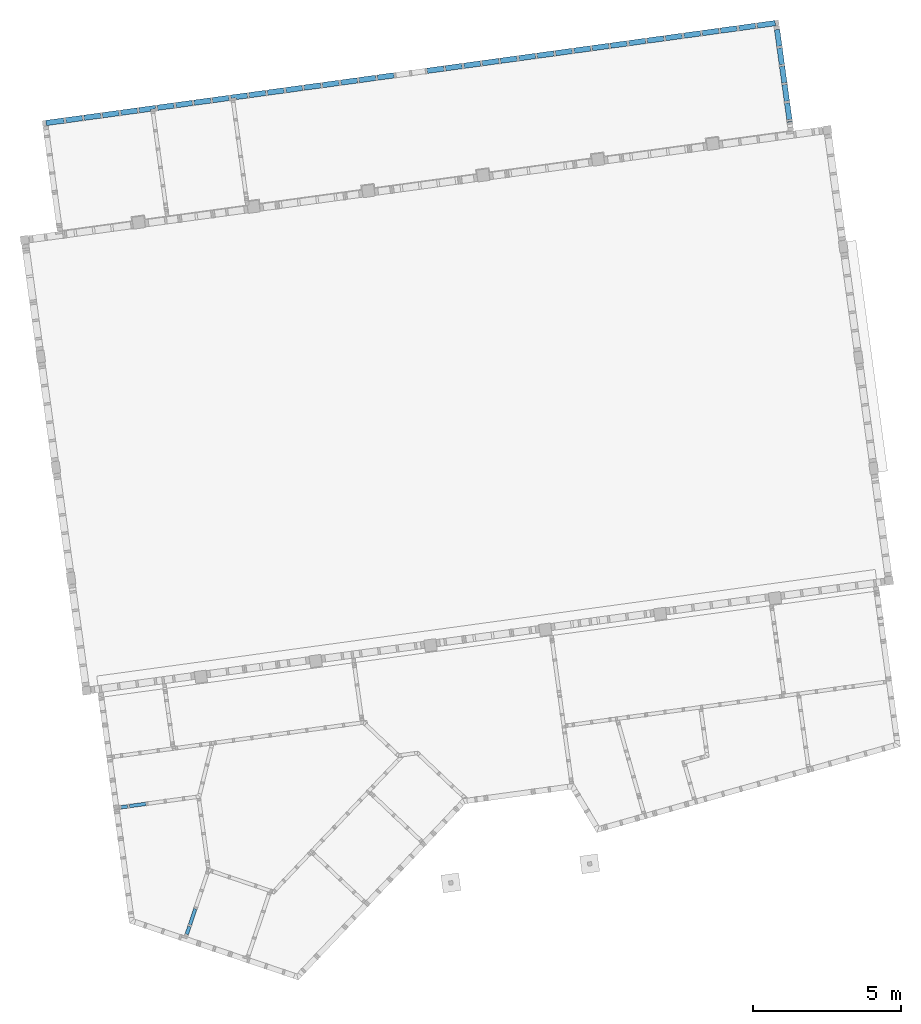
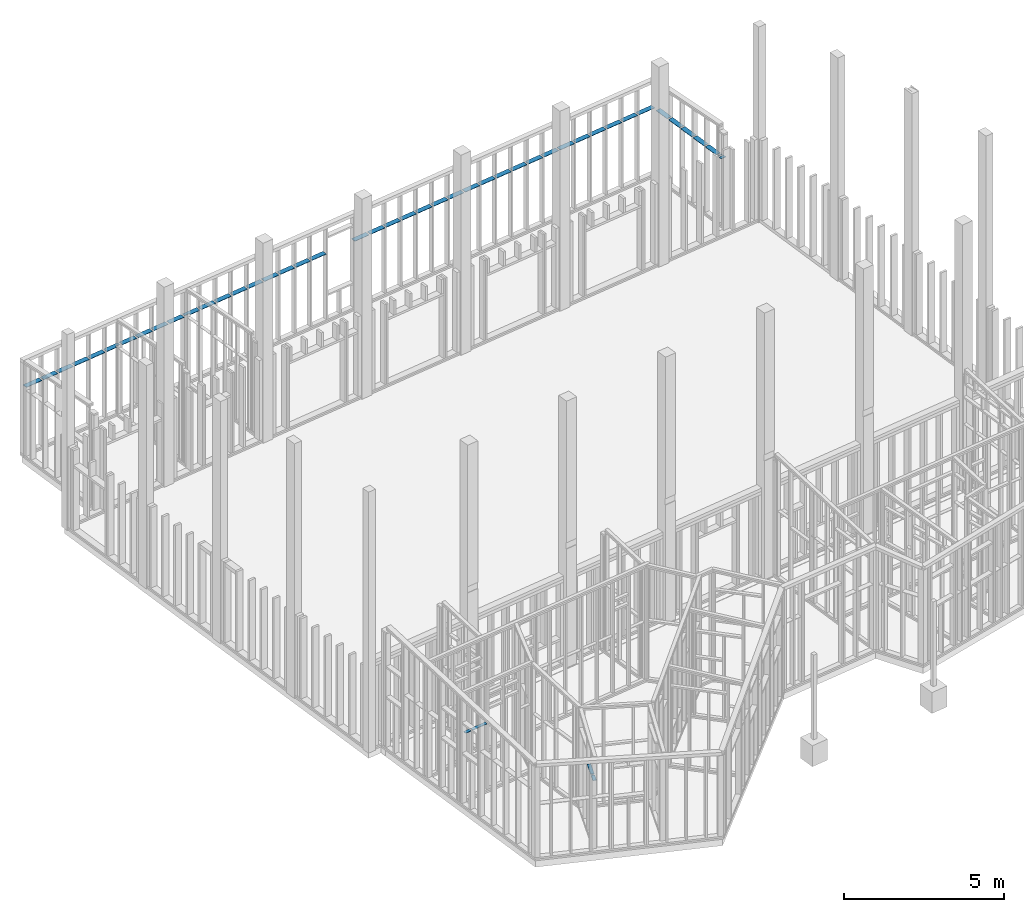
# One storey, part 21 of 24: 5 beams.
"""IFC2X3 building model written with IfcOpenShell, lengths in metres."""

from ifc_helpers import new_model, entity, si_unit, converted_unit, derived_unit, money_unit, direction, frame, frame_2d, origin_with_axes, place, context, subcontext, project, spatial, rectangle, extrude, boolean, faceted_brep, material, type_object, element, save


model = new_model("IFC2X3")

# Units and contexts
model_context = context("Model", 3, precision=1e-05, world=origin_with_axes(), true_north=direction((0.0, 1.0)))
body_context = subcontext(model_context, "Body", "Model", "MODEL_VIEW")
ifc_project = project(units=[si_unit("LENGTHUNIT", "METRE"), si_unit("AREAUNIT", "SQUARE_METRE"), si_unit("VOLUMEUNIT", "CUBIC_METRE"), converted_unit("PLANEANGLEUNIT", "DEGREE", entity("IfcPlaneAngleMeasure", 0.0174532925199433), si_unit("PLANEANGLEUNIT", "RADIAN"), dimensions=[0, 0, 0, 0, 0, 0, 0]), money_unit("EUR"), converted_unit("TIMEUNIT", "Year", entity("IfcTimeMeasure", 31557600.0), si_unit("TIMEUNIT", "SECOND"), dimensions=[0, 0, 1, 0, 0, 0, 0]), si_unit("MASSUNIT", "GRAM", prefix="KILO"), si_unit("THERMODYNAMICTEMPERATUREUNIT", "DEGREE_CELSIUS"), si_unit("LUMINOUSINTENSITYUNIT", "LUMEN"), si_unit("ENERGYUNIT", "JOULE", prefix="MEGA"), derived_unit("THERMALCONDUCTANCEUNIT", [(si_unit("POWERUNIT", "WATT"), 1), (si_unit("LENGTHUNIT", "METRE"), -1), (si_unit("THERMODYNAMICTEMPERATUREUNIT", "KELVIN"), -1)]), derived_unit("SPECIFICHEATCAPACITYUNIT", [(si_unit("ENERGYUNIT", "JOULE"), 1), (si_unit("MASSUNIT", "GRAM", prefix="KILO"), -1), (si_unit("THERMODYNAMICTEMPERATUREUNIT", "KELVIN"), -1)]), derived_unit("MASSDENSITYUNIT", [(si_unit("MASSUNIT", "GRAM", prefix="KILO"), 1), (si_unit("VOLUMEUNIT", "CUBIC_METRE"), -1)])], contexts=[model_context])

# Site, building, storey
site_placement = place(None, origin_with_axes())
site = spatial("IfcSite", under=ifc_project, at=site_placement, Name="Gelände", CompositionType="ELEMENT")
building_placement = place(site_placement, origin_with_axes())
building = spatial("IfcBuilding", under=site, at=building_placement, Name="Gebäude", CompositionType="ELEMENT")
storey_placement = place(building_placement, origin_with_axes())
storey = spatial("IfcBuildingStorey", under=building, at=storey_placement, Name="EG", CompositionType="ELEMENT", Elevation=0.0)

# Beams
ifc_material = material(Name="Bauholz")
beam_type_1 = type_object("IfcBeamType", Name="Bauholz 120 x 15", PredefinedType="NOTDEFINED")
beam_1_placement = place(storey_placement, frame((88.60541086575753, -154.8373218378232, 2.471999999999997), z_axis=(0.0, 0.0, 1.0), x_axis=(-0.1357111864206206, 0.990748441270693, 0.0)))
element("IfcBeam", 1, at=beam_1_placement, inside=storey, type_object=beam_type_1, material=ifc_material, Name="Unterzug-021", context=body_context, shape_type="CSG", body=[
    boolean("DIFFERENCE", extrude(rectangle(XDim=0.015, YDim=0.12, at=frame_2d((-0.0075, 0.0), x_axis=(1.0, 0.0))), frame((0.0, 0.0, 0.0), z_axis=(0.0, 1.0, 0.0), x_axis=(0.0, 0.0, 1.0)), (0.0, 0.0, 1.0), 0.8474194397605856), faceted_brep([(-0.06000000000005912, 0.564999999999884, -0.01500000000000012), (-0.06000000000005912, 0.564999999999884, 0.0), (-0.06000000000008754, 0.6249999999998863, 0.0), (-0.06000000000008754, 0.6249999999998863, -0.01500000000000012), (0.05999999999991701, 0.5649999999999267, 0.0), (0.05999999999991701, 0.5649999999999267, -0.01499999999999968), (0.05999999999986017, 0.624999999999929, 0.0), (0.05999999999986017, 0.624999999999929, -0.01500000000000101)], [[[0, 1, 2, 3]], [[4, 1, 0, 5]], [[1, 4, 6, 2]], [[7, 3, 2, 6]], [[5, 0, 3, 7]], [[4, 5, 7, 6]]])),
])
beam_2_placement = place(storey_placement, frame((90.27237120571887, -158.3831203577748, 2.472), z_axis=(0.0, 0.0, 1.0), x_axis=(-0.9474861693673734, 0.3197967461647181, 0.0)))
element("IfcBeam", 2, at=beam_2_placement, inside=storey, type_object=beam_type_1, material=ifc_material, Name="Unterzug-021", context=body_context, shape_type="CSG", body=[
    boolean("DIFFERENCE", extrude(rectangle(XDim=0.015, YDim=0.12, at=frame_2d((-0.0075, 0.0), x_axis=(1.0, 0.0))), frame((0.0, 0.0, 0.0), z_axis=(0.0, 1.0, 0.0), x_axis=(0.0, 0.0, 1.0)), (0.0, 0.0, 1.0), 0.910565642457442), faceted_brep([(-0.05999990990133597, 0.565000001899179, -0.01500000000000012), (-0.05999990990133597, 0.565000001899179, 0.0), (-0.05999986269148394, 0.6250000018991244, 0.0), (-0.05999986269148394, 0.6250000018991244, -0.01500000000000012), (0.06000009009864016, 0.5649999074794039, 0.0), (0.06000009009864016, 0.5649999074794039, -0.01500000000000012), (0.06000013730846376, 0.6249999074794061, 0.0), (0.06000013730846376, 0.6249999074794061, -0.01500000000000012)], [[[0, 1, 2, 3]], [[4, 1, 0, 5]], [[1, 4, 6, 2]], [[7, 3, 2, 6]], [[5, 0, 3, 7]], [[4, 5, 7, 6]]])),
])
beam_type_2 = type_object("IfcBeamType", Name="Bauholz 180 x 15", PredefinedType="NOTDEFINED")
beam_3_placement = place(storey_placement, frame((96.98406004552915, -130.233993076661, 2.564999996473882), z_axis=(0.0, 0.0, 1.0), x_axis=(-0.1357111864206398, 0.9907484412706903, 0.0)))
solid_1 = boolean("DIFFERENCE", boolean("DIFFERENCE", boolean("DIFFERENCE", boolean("DIFFERENCE", boolean("DIFFERENCE", boolean("DIFFERENCE", boolean("DIFFERENCE", boolean("DIFFERENCE", extrude(rectangle(XDim=0.015, YDim=0.18, at=frame_2d((-0.0075, 0.0), x_axis=(1.0, 0.0))), frame((0.0, 0.0, 0.0), z_axis=(0.0, 1.0, 0.0), x_axis=(0.0, 0.0, 1.0)), (0.0, 0.0, 1.0), 11.86468620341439), faceted_brep([(-0.09000000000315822, 0.5650000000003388, -0.01500000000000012), (-0.09000000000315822, 0.5650000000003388, 0.0), (-0.09000000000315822, 0.6250000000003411, 0.0), (-0.09000000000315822, 0.6250000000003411, -0.01500000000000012), (0.08999999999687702, 0.5650000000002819, 0.0), (0.08999999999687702, 0.5650000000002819, -0.01500000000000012), (0.0899999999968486, 0.6250000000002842, 0.0), (0.0899999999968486, 0.6250000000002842, -0.01500000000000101)], [[[0, 1, 2, 3]], [[4, 1, 0, 5]], [[1, 4, 6, 2]], [[7, 3, 2, 6]], [[5, 0, 3, 7]], [[4, 5, 7, 6]]])), faceted_brep([(-0.0900000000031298, 1.190000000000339, -0.01500000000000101), (-0.0900000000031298, 1.190000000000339, 0.0), (-0.0900000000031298, 1.250000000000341, 0.0), (-0.0900000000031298, 1.250000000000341, -0.01500000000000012), (0.08999999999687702, 1.190000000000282, 0.0), (0.08999999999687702, 1.190000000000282, -0.01500000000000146), (0.08999999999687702, 1.250000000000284, 0.0), (0.08999999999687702, 1.250000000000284, -0.01500000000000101)], [[[0, 1, 2, 3]], [[4, 1, 0, 5]], [[1, 4, 6, 2]], [[7, 3, 2, 6]], [[5, 0, 3, 7]], [[4, 5, 7, 6]]])), faceted_brep([(-0.0900000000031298, 1.815000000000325, -0.01500000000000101), (-0.0900000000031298, 1.815000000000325, 0.0), (-0.09000000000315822, 1.875000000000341, 0.0), (-0.09000000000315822, 1.875000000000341, -0.01500000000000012), (0.08999999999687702, 1.815000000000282, 0.0), (0.08999999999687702, 1.815000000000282, -0.01500000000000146), (0.0899999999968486, 1.875000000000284, 0.0), (0.0899999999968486, 1.875000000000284, -0.01500000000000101)], [[[0, 1, 2, 3]], [[4, 1, 0, 5]], [[1, 4, 6, 2]], [[7, 3, 2, 6]], [[5, 0, 3, 7]], [[4, 5, 7, 6]]])), faceted_brep([(-0.09000000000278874, 2.440000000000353, -0.01500000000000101), (-0.09000000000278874, 2.440000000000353, 0.0), (-0.0900000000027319, 2.500000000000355, 0.0), (-0.0900000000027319, 2.500000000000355, -0.01500000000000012), (0.08999999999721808, 2.440000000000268, 0.0), (0.08999999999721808, 2.440000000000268, -0.01500000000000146), (0.08999999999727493, 2.500000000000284, 0.0), (0.08999999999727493, 2.500000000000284, -0.01500000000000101)], [[[0, 1, 2, 3]], [[4, 1, 0, 5]], [[1, 4, 6, 2]], [[7, 3, 2, 6]], [[5, 0, 3, 7]], [[4, 5, 7, 6]]])), faceted_brep([(-0.0900000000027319, 3.065000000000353, -0.01500000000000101), (-0.0900000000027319, 3.065000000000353, 0.0), (-0.09000000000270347, 3.125000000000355, 0.0), (-0.09000000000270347, 3.125000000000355, -0.01500000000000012), (0.08999999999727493, 3.065000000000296, 0.0), (0.08999999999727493, 3.065000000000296, -0.01500000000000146), (0.08999999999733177, 3.125000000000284, 0.0), (0.08999999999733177, 3.125000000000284, -0.01500000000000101)], [[[0, 1, 2, 3]], [[4, 1, 0, 5]], [[1, 4, 6, 2]], [[7, 3, 2, 6]], [[5, 0, 3, 7]], [[4, 5, 7, 6]]])), faceted_brep([(-0.0900000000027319, 3.690000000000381, -0.01500000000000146), (-0.0900000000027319, 3.690000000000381, 0.0), (-0.0900000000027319, 3.750000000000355, 0.0), (-0.0900000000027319, 3.750000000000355, -0.01500000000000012), (0.0899999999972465, 3.690000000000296, 0.0), (0.0899999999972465, 3.690000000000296, -0.01500000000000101), (0.08999999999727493, 3.750000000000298, 0.0), (0.08999999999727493, 3.750000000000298, -0.01500000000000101)], [[[0, 1, 2, 3]], [[4, 1, 0, 5]], [[1, 4, 6, 2]], [[7, 3, 2, 6]], [[5, 0, 3, 7]], [[4, 5, 7, 6]]])), faceted_brep([(-0.09000000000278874, 4.315000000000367, -0.01500000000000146), (-0.09000000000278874, 4.315000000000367, 0.0), (-0.09000000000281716, 4.375000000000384, 0.0), (-0.09000000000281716, 4.375000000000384, -0.01500000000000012), (0.08999999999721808, 4.315000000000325, 0.0), (0.08999999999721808, 4.315000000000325, -0.01500000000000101), (0.08999999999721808, 4.375000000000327, 0.0), (0.08999999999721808, 4.375000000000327, -0.01500000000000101)], [[[0, 1, 2, 3]], [[4, 1, 0, 5]], [[1, 4, 6, 2]], [[7, 3, 2, 6]], [[5, 0, 3, 7]], [[4, 5, 7, 6]]])), faceted_brep([(-0.09000000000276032, 4.940000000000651, -0.01500000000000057), (-0.09000000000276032, 4.940000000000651, 0.0), (-0.0900000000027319, 5.000000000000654, 0.0), (-0.0900000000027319, 5.000000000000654, -0.01500000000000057), (0.0899999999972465, 4.940000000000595, 0.0), (0.0899999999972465, 4.940000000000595, -0.01500000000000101), (0.0899999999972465, 5.000000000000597, 0.0), (0.0899999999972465, 5.000000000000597, -0.01500000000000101)], [[[0, 1, 2, 3]], [[4, 1, 0, 5]], [[1, 4, 6, 2]], [[7, 3, 2, 6]], [[5, 0, 3, 7]], [[4, 5, 7, 6]]]))
solid_2 = boolean("DIFFERENCE", boolean("DIFFERENCE", boolean("DIFFERENCE", boolean("DIFFERENCE", boolean("DIFFERENCE", boolean("DIFFERENCE", boolean("DIFFERENCE", boolean("DIFFERENCE", solid_1, faceted_brep([(-0.08999999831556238, 5.384999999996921, -0.01500000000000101), (-0.08999999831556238, 5.384999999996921, 0.0), (-0.08999998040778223, 5.625000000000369, 0.0), (-0.08999998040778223, 5.625000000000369, -0.01499999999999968), (-0.02999999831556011, 5.385000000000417, 0.0), (-0.02999999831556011, 5.385000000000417, -0.01500000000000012), (-0.0299999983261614, 5.565000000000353, 0.0), (0.09000001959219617, 5.565000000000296, 0.0), (0.09000001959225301, 5.625000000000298, 0.0), (0.09000001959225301, 5.625000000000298, -0.01500000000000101), (0.09000001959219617, 5.565000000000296, -0.01500000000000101), (-0.0299999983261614, 5.565000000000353, -0.01500000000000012)], [[[0, 1, 2, 3]], [[4, 1, 0, 5]], [[6, 7, 8, 2, 1, 4]], [[9, 3, 2, 8]], [[5, 0, 3, 9, 10, 11]], [[6, 4, 5, 11]], [[7, 6, 11, 10]], [[7, 10, 9, 8]]])), faceted_brep([(-0.08999998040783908, 6.190000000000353, -0.01499999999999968), (-0.08999998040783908, 6.190000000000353, 0.0), (-0.08999998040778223, 6.250000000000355, 0.0), (-0.08999998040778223, 6.250000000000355, -0.01499999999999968), (0.09000001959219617, 6.190000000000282, 0.0), (0.09000001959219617, 6.190000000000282, -0.01500000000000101), (0.09000001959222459, 6.250000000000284, 0.0), (0.09000001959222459, 6.250000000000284, -0.01500000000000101)], [[[0, 1, 2, 3]], [[4, 1, 0, 5]], [[1, 4, 6, 2]], [[7, 3, 2, 6]], [[5, 0, 3, 7]], [[4, 5, 7, 6]]])), faceted_brep([(-0.09000000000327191, 6.815000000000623, -0.01500000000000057), (-0.09000000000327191, 6.815000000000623, 0.0), (-0.09000000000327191, 6.875000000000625, 0.0), (-0.09000000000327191, 6.875000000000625, -0.01499999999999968), (0.08999999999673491, 6.815000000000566, 0.0), (0.08999999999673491, 6.815000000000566, -0.01500000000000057), (0.08999999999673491, 6.875000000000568, 0.0), (0.08999999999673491, 6.875000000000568, -0.01500000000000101)], [[[0, 1, 2, 3]], [[4, 1, 0, 5]], [[1, 4, 6, 2]], [[7, 3, 2, 6]], [[5, 0, 3, 7]], [[4, 5, 7, 6]]])), faceted_brep([(-0.09000000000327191, 7.440000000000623, -0.01500000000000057), (-0.09000000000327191, 7.440000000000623, 0.0), (-0.09000000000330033, 7.500000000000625, 0.0), (-0.09000000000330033, 7.500000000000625, -0.01499999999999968), (0.08999999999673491, 7.440000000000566, 0.0), (0.08999999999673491, 7.440000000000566, -0.01500000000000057), (0.08999999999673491, 7.500000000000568, 0.0), (0.08999999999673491, 7.500000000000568, -0.01500000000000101)], [[[0, 1, 2, 3]], [[4, 1, 0, 5]], [[1, 4, 6, 2]], [[7, 3, 2, 6]], [[5, 0, 3, 7]], [[4, 5, 7, 6]]])), faceted_brep([(-0.09000000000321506, 8.065000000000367, -0.01500000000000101), (-0.09000000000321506, 8.065000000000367, 0.0), (-0.0900000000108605, 8.30500001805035, 0.0), (-0.0900000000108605, 8.30500001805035, -0.01500000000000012), (0.08999999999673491, 8.065000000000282, 0.0), (0.08999999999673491, 8.065000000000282, -0.01500000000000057), (0.08999999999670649, 8.125000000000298, 0.0), (-0.03000000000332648, 8.125000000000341, 0.0), (-0.03000000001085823, 8.305000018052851, 0.0), (-0.03000000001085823, 8.305000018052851, -0.01500000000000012), (-0.03000000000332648, 8.125000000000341, -0.01500000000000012), (0.08999999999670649, 8.125000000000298, -0.01500000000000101)], [[[0, 1, 2, 3]], [[4, 1, 0, 5]], [[1, 4, 6, 7, 8, 2]], [[9, 3, 2, 8]], [[5, 0, 3, 9, 10, 11]], [[4, 5, 11, 6]], [[10, 7, 6, 11]], [[9, 8, 7, 10]]])), faceted_brep([(-0.09000000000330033, 8.690000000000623, -0.01500000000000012), (-0.09000000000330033, 8.690000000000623, 0.0), (-0.09000000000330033, 8.750000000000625, 0.0), (-0.09000000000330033, 8.750000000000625, -0.01500000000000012), (0.08999999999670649, 8.690000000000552, 0.0), (0.08999999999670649, 8.690000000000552, -0.01500000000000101), (0.08999999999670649, 8.750000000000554, 0.0), (0.08999999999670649, 8.750000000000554, -0.01500000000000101)], [[[0, 1, 2, 3]], [[4, 1, 0, 5]], [[1, 4, 6, 2]], [[7, 3, 2, 6]], [[5, 0, 3, 7]], [[4, 5, 7, 6]]])), faceted_brep([(-0.09000000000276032, 9.315000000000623, -0.01500000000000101), (-0.09000000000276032, 9.315000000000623, 0.0), (-0.09000000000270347, 9.375000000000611, 0.0), (-0.09000000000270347, 9.375000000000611, -0.01499999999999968), (0.08999999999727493, 9.315000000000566, 0.0), (0.08999999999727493, 9.315000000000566, -0.01500000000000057), (0.08999999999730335, 9.375000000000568, 0.0), (0.08999999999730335, 9.375000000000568, -0.01500000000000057)], [[[0, 1, 2, 3]], [[4, 1, 0, 5]], [[1, 4, 6, 2]], [[7, 3, 2, 6]], [[5, 0, 3, 7]], [[4, 5, 7, 6]]])), faceted_brep([(-0.09000000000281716, 9.940000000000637, -0.01500000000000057), (-0.09000000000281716, 9.940000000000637, 0.0), (-0.09000000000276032, 10.00000000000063, 0.0), (-0.09000000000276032, 10.00000000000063, -0.01499999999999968), (0.08999999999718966, 9.940000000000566, 0.0), (0.08999999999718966, 9.940000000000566, -0.01500000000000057), (0.0899999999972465, 10.00000000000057, 0.0), (0.0899999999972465, 10.00000000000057, -0.01500000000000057)], [[[0, 1, 2, 3]], [[4, 1, 0, 5]], [[1, 4, 6, 2]], [[7, 3, 2, 6]], [[5, 0, 3, 7]], [[4, 5, 7, 6]]]))
element("IfcBeam", 3, at=beam_3_placement, inside=storey, type_object=beam_type_2, material=ifc_material, Name="Unterzug-021", context=body_context, shape_type="CSG", body=[
    boolean("DIFFERENCE", boolean("DIFFERENCE", solid_2, faceted_brep([(-0.0900000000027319, 10.56500000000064, -0.01500000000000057), (-0.0900000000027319, 10.56500000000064, 0.0), (-0.0900000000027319, 10.62500000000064, 0.0), (-0.0900000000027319, 10.62500000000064, -0.01499999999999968), (0.0899999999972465, 10.56500000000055, 0.0), (0.0899999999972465, 10.56500000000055, -0.01500000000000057), (0.08999999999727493, 10.62500000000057, 0.0), (0.08999999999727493, 10.62500000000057, -0.01500000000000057)], [[[0, 1, 2, 3]], [[4, 1, 0, 5]], [[1, 4, 6, 2]], [[7, 3, 2, 6]], [[5, 0, 3, 7]], [[4, 5, 7, 6]]])), faceted_brep([(-0.0900000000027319, 11.19000000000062, -0.01500000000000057), (-0.0900000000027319, 11.19000000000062, 0.0), (-0.0900000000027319, 11.25000000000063, 0.0), (-0.0900000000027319, 11.25000000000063, -0.01499999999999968), (0.08999999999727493, 11.19000000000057, 0.0), (0.08999999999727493, 11.19000000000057, -0.01500000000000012), (0.08999999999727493, 11.25000000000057, 0.0), (0.08999999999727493, 11.25000000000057, -0.01500000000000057)], [[[0, 1, 2, 3]], [[4, 1, 0, 5]], [[1, 4, 6, 2]], [[7, 3, 2, 6]], [[5, 0, 3, 7]], [[4, 5, 7, 6]]])),
])
beam_4_placement = place(storey_placement, frame((109.8585251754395, -128.4704687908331, 2.564999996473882), z_axis=(0.0, 0.0, 1.0), x_axis=(-0.1357111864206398, 0.9907484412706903, 0.0)))
solid_3 = boolean("DIFFERENCE", boolean("DIFFERENCE", boolean("DIFFERENCE", boolean("DIFFERENCE", boolean("DIFFERENCE", boolean("DIFFERENCE", boolean("DIFFERENCE", boolean("DIFFERENCE", extrude(rectangle(XDim=0.015, YDim=0.18, at=frame_2d((-0.0075, 0.0), x_axis=(1.0, 0.0))), frame((0.0, 0.0, 0.0), z_axis=(0.0, 1.0, 0.0), x_axis=(0.0, 0.0, 1.0)), (0.0, 0.0, 1.0), 11.86468620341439), faceted_brep([(0.08999999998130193, 11.29968623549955, 0.0), (-0.0900000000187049, 11.29968623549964, 0.0), (-0.0900000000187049, 11.23968623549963, 0.0), (0.08999999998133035, 11.23968623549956, 0.0), (-0.0900000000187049, 11.29968623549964, -0.01500000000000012), (0.08999999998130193, 11.29968623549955, -0.01500000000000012), (-0.0900000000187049, 11.23968623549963, -0.01500000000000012), (0.08999999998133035, 11.23968623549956, -0.01500000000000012)], [[[0, 1, 2, 3]], [[4, 1, 0, 5]], [[1, 4, 6, 2]], [[7, 3, 2, 6]], [[5, 0, 3, 7]], [[4, 5, 7, 6]]])), faceted_brep([(0.08999999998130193, 10.67468623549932, 0.0), (-0.09000000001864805, 10.67468623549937, 0.0), (-0.0900000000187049, 10.61468623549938, 0.0), (0.08999999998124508, 10.61468623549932, 0.0), (-0.09000000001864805, 10.67468623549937, -0.01499999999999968), (0.08999999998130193, 10.67468623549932, -0.01500000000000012), (-0.0900000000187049, 10.61468623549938, -0.01500000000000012), (0.08999999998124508, 10.61468623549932, -0.01500000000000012)], [[[0, 1, 2, 3]], [[4, 1, 0, 5]], [[1, 4, 6, 2]], [[7, 3, 2, 6]], [[5, 0, 3, 7]], [[4, 5, 7, 6]]])), faceted_brep([(0.08999999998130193, 10.04968623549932, 0.0), (-0.0900000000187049, 10.04968623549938, 0.0), (-0.09000000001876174, 9.989686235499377, 0.0), (0.0899999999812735, 9.98968623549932, 0.0), (-0.0900000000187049, 10.04968623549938, -0.01499999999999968), (0.08999999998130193, 10.04968623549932, -0.01500000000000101), (-0.09000000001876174, 9.989686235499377, -0.01500000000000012), (0.0899999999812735, 9.98968623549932, -0.01500000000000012)], [[[0, 1, 2, 3]], [[4, 1, 0, 5]], [[1, 4, 6, 2]], [[7, 3, 2, 6]], [[5, 0, 3, 7]], [[4, 5, 7, 6]]])), faceted_brep([(0.08999999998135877, 9.424686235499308, 0.0), (-0.09000000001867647, 9.42468623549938, 0.0), (-0.0900000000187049, 9.364686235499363, 0.0), (0.08999999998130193, 9.36468623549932, 0.0), (-0.09000000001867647, 9.42468623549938, -0.01499999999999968), (0.08999999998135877, 9.424686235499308, -0.01500000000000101), (-0.0900000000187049, 9.364686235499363, -0.01500000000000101), (0.08999999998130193, 9.36468623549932, -0.01500000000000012)], [[[0, 1, 2, 3]], [[4, 1, 0, 5]], [[1, 4, 6, 2]], [[7, 3, 2, 6]], [[5, 0, 3, 7]], [[4, 5, 7, 6]]])), faceted_brep([(0.08999999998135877, 8.799686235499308, 0.0), (-0.09000000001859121, 8.79968623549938, 0.0), (-0.09000000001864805, 8.739686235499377, 0.0), (0.08999999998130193, 8.73968623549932, 0.0), (-0.09000000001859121, 8.79968623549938, -0.01500000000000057), (0.08999999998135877, 8.799686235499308, -0.01500000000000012), (-0.09000000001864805, 8.739686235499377, -0.01500000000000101), (0.08999999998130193, 8.73968623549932, -0.01500000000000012)], [[[0, 1, 2, 3]], [[4, 1, 0, 5]], [[1, 4, 6, 2]], [[7, 3, 2, 6]], [[5, 0, 3, 7]], [[4, 5, 7, 6]]])), faceted_brep([(0.08999999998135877, 8.17468623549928, 0.0), (-0.09000000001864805, 8.174686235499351, 0.0), (-0.09000000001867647, 8.114686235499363, 0.0), (0.08999999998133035, 8.114686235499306, 0.0), (-0.09000000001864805, 8.174686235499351, -0.01500000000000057), (0.08999999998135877, 8.17468623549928, -0.01500000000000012), (-0.09000000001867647, 8.114686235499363, -0.0150000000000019), (0.08999999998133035, 8.114686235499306, -0.01500000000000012)], [[[0, 1, 2, 3]], [[4, 1, 0, 5]], [[1, 4, 6, 2]], [[7, 3, 2, 6]], [[5, 0, 3, 7]], [[4, 5, 7, 6]]])), faceted_brep([(0.08999999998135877, 7.54968623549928, 0.0), (-0.09000000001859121, 7.549686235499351, 0.0), (-0.09000000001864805, 7.489686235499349, 0.0), (0.08999999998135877, 7.489686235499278, 0.0), (-0.09000000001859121, 7.549686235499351, -0.01500000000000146), (0.08999999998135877, 7.54968623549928, -0.01500000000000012), (-0.09000000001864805, 7.489686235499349, -0.01500000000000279), (0.08999999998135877, 7.489686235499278, -0.01500000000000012)], [[[0, 1, 2, 3]], [[4, 1, 0, 5]], [[1, 4, 6, 2]], [[7, 3, 2, 6]], [[5, 0, 3, 7]], [[4, 5, 7, 6]]])), faceted_brep([(0.08999999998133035, 6.924686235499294, 0.0), (-0.09000000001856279, 6.924686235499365, 0.0), (-0.09000000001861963, 6.864686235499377, 0.0), (0.08999999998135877, 6.864686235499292, 0.0), (-0.09000000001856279, 6.924686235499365, -0.01500000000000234), (0.08999999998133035, 6.924686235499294, -0.01500000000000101), (-0.09000000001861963, 6.864686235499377, -0.01500000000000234), (0.08999999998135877, 6.864686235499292, -0.01500000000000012)], [[[0, 1, 2, 3]], [[4, 1, 0, 5]], [[1, 4, 6, 2]], [[7, 3, 2, 6]], [[5, 0, 3, 7]], [[4, 5, 7, 6]]]))
solid_4 = boolean("DIFFERENCE", boolean("DIFFERENCE", boolean("DIFFERENCE", boolean("DIFFERENCE", boolean("DIFFERENCE", boolean("DIFFERENCE", boolean("DIFFERENCE", boolean("DIFFERENCE", solid_3, faceted_brep([(0.08999999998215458, 6.299686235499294, 0.0), (-0.09000000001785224, 6.299686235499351, 0.0), (-0.09000000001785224, 6.239686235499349, 0.0), (0.08999999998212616, 6.239686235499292, 0.0), (-0.09000000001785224, 6.299686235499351, -0.0150000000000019), (0.08999999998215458, 6.299686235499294, -0.01500000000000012), (-0.09000000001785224, 6.239686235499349, -0.01500000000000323), (0.08999999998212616, 6.239686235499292, -0.01500000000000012)], [[[0, 1, 2, 3]], [[4, 1, 0, 5]], [[1, 4, 6, 2]], [[7, 3, 2, 6]], [[5, 0, 3, 7]], [[4, 5, 7, 6]]])), faceted_brep([(0.08999999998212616, 5.674686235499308, 0.0), (-0.09000000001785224, 5.674686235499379, 0.0), (-0.09000000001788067, 5.614686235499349, 0.0), (0.08999999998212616, 5.614686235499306, 0.0), (-0.09000000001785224, 5.674686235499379, -0.01500000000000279), (0.08999999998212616, 5.674686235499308, -0.01500000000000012), (-0.09000000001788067, 5.614686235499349, -0.01500000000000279), (0.08999999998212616, 5.614686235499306, -0.01500000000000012)], [[[0, 1, 2, 3]], [[4, 1, 0, 5]], [[1, 4, 6, 2]], [[7, 3, 2, 6]], [[5, 0, 3, 7]], [[4, 5, 7, 6]]])), faceted_brep([(0.08999999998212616, 5.049686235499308, 0.0), (-0.09000000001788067, 5.049686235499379, 0.0), (-0.09000000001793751, 4.989686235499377, 0.0), (0.08999999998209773, 4.989686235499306, 0.0), (-0.09000000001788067, 5.049686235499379, -0.01500000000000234), (0.08999999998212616, 5.049686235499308, -0.01500000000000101), (-0.09000000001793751, 4.989686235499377, -0.01500000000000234), (0.08999999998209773, 4.989686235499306, -0.01500000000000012)], [[[0, 1, 2, 3]], [[4, 1, 0, 5]], [[1, 4, 6, 2]], [[7, 3, 2, 6]], [[5, 0, 3, 7]], [[4, 5, 7, 6]]])), faceted_brep([(0.08999999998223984, 4.424686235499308, 0.0), (-0.09000000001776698, 4.424686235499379, 0.0), (-0.0900000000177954, 4.364686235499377, 0.0), (0.08999999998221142, 4.364686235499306, 0.0), (-0.09000000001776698, 4.424686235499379, -0.0150000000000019), (0.08999999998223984, 4.424686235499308, -0.01500000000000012), (-0.0900000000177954, 4.364686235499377, -0.01500000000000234), (0.08999999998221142, 4.364686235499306, -0.01500000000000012)], [[[0, 1, 2, 3]], [[4, 1, 0, 5]], [[1, 4, 6, 2]], [[7, 3, 2, 6]], [[5, 0, 3, 7]], [[4, 5, 7, 6]]])), faceted_brep([(0.08999999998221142, 3.799686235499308, 0.0), (-0.0900000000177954, 3.799686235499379, 0.0), (-0.0900000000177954, 3.739686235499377, 0.0), (0.08999999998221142, 3.739686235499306, 0.0), (-0.0900000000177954, 3.799686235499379, -0.0150000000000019), (0.08999999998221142, 3.799686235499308, -0.01500000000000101), (-0.0900000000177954, 3.739686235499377, -0.01500000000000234), (0.08999999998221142, 3.739686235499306, -0.01500000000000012)], [[[0, 1, 2, 3]], [[4, 1, 0, 5]], [[1, 4, 6, 2]], [[7, 3, 2, 6]], [[5, 0, 3, 7]], [[4, 5, 7, 6]]])), faceted_brep([(0.08999999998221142, 3.17468623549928, 0.0), (-0.0900000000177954, 3.174686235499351, 0.0), (-0.09000000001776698, 3.114686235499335, 0.0), (0.089999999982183, 3.114686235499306, 0.0), (-0.0900000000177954, 3.174686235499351, -0.0150000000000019), (0.08999999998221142, 3.17468623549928, -0.01500000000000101), (-0.09000000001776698, 3.114686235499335, -0.01500000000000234), (0.089999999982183, 3.114686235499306, -0.01500000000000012)], [[[0, 1, 2, 3]], [[4, 1, 0, 5]], [[1, 4, 6, 2]], [[7, 3, 2, 6]], [[5, 0, 3, 7]], [[4, 5, 7, 6]]])), faceted_brep([(0.08999999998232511, 2.54968623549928, 0.0), (-0.09000000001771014, 2.549686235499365, 0.0), (-0.09000000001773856, 2.489686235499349, 0.0), (0.08999999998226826, 2.489686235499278, 0.0), (-0.09000000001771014, 2.549686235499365, -0.01500000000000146), (0.08999999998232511, 2.54968623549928, -0.01500000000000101), (-0.09000000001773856, 2.489686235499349, -0.01500000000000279), (0.08999999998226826, 2.489686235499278, -0.01500000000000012)], [[[0, 1, 2, 3]], [[4, 1, 0, 5]], [[1, 4, 6, 2]], [[7, 3, 2, 6]], [[5, 0, 3, 7]], [[4, 5, 7, 6]]])), faceted_brep([(0.08999999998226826, 1.92468623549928, 0.0), (-0.09000000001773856, 1.924686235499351, 0.0), (-0.09000000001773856, 1.864686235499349, 0.0), (0.08999999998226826, 1.864686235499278, 0.0), (-0.09000000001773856, 1.924686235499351, -0.0150000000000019), (0.08999999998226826, 1.92468623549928, -0.01500000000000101), (-0.09000000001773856, 1.864686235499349, -0.01500000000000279), (0.08999999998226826, 1.864686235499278, -0.01500000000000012)], [[[0, 1, 2, 3]], [[4, 1, 0, 5]], [[1, 4, 6, 2]], [[7, 3, 2, 6]], [[5, 0, 3, 7]], [[4, 5, 7, 6]]]))
element("IfcBeam", 4, at=beam_4_placement, inside=storey, type_object=beam_type_2, material=ifc_material, Name="Unterzug-021", context=body_context, shape_type="CSG", body=[
    boolean("DIFFERENCE", boolean("DIFFERENCE", solid_4, faceted_brep([(0.08999999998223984, 1.299686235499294, 0.0), (-0.09000000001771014, 1.299686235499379, 0.0), (-0.09000000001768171, 1.239686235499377, 0.0), (0.08999999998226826, 1.239686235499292, 0.0), (-0.09000000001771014, 1.299686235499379, -0.0150000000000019), (0.08999999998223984, 1.299686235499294, -0.01500000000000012), (-0.09000000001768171, 1.239686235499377, -0.01500000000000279), (0.08999999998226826, 1.239686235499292, -0.01500000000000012)], [[[0, 1, 2, 3]], [[4, 1, 0, 5]], [[1, 4, 6, 2]], [[7, 3, 2, 6]], [[5, 0, 3, 7]], [[4, 5, 7, 6]]])), faceted_brep([(0.08999999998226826, 0.6746862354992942, 0.0), (-0.09000000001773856, 0.6746862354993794, 0.0), (-0.09000000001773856, 0.6146862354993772, 0.0), (0.08999999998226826, 0.6146862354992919, 0.0), (-0.09000000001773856, 0.6746862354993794, -0.01500000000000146), (0.08999999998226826, 0.6746862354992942, -0.01500000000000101), (-0.09000000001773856, 0.6146862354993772, -0.01500000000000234), (0.08999999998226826, 0.6146862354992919, -0.01500000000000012)], [[[0, 1, 2, 3]], [[4, 1, 0, 5]], [[1, 4, 6, 2]], [[7, 3, 2, 6]], [[5, 0, 3, 7]], [[4, 5, 7, 6]]])),
])
beam_5_placement = place(storey_placement, frame((109.9187826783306, -128.689316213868, 2.564999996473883), z_axis=(0.0, 0.0, 1.0), x_axis=(-0.990748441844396, -0.135711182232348, 0.0)))
element("IfcBeam", 5, at=beam_5_placement, inside=storey, type_object=beam_type_2, material=ifc_material, Name="Unterzug-021", context=body_context, shape_type="CSG", body=[
    boolean("DIFFERENCE", boolean("DIFFERENCE", boolean("DIFFERENCE", boolean("DIFFERENCE", boolean("DIFFERENCE", boolean("DIFFERENCE", extrude(rectangle(XDim=0.015, YDim=0.18, at=frame_2d((-0.0075, 0.0), x_axis=(1.0, 0.0))), frame((0.0, 0.0, 0.0), z_axis=(0.0, 1.0, 0.0), x_axis=(0.0, 0.0, 1.0)), (0.0, 0.0, 1.0), 3.332499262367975), faceted_brep([(0.08999997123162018, 2.500000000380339, 0.0), (-0.09000002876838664, 2.499999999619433, 0.0), (-0.0900000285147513, 2.439999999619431, 0.0), (0.08999997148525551, 2.440000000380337, 0.0), (-0.09000002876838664, 2.499999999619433, -0.01499999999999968), (0.08999997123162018, 2.500000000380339, -0.01500000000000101), (-0.0900000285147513, 2.439999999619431, -0.01500000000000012), (0.08999997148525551, 2.440000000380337, -0.01499999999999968)], [[[0, 1, 2, 3]], [[4, 1, 0, 5]], [[1, 4, 6, 2]], [[7, 3, 2, 6]], [[5, 0, 3, 7]], [[4, 5, 7, 6]]])), faceted_brep([(-0.09000003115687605, 3.064999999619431, -0.01500000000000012), (-0.09000003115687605, 3.064999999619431, 0.0), (-0.09000003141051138, 3.124999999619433, 0.0), (-0.09000003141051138, 3.124999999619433, -0.01500000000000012), (0.08999996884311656, 3.06500000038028, 0.0), (0.08999996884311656, 3.06500000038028, -0.01500000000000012), (0.08999996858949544, 3.125000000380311, 0.0), (0.08999996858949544, 3.125000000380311, -0.01500000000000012)], [[[0, 1, 2, 3]], [[4, 1, 0, 5]], [[1, 4, 6, 2]], [[7, 3, 2, 6]], [[5, 0, 3, 7]], [[4, 5, 7, 6]]])), faceted_brep([(0.08999997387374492, 1.875000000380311, 0.0), (-0.09000002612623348, 1.874999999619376, 0.0), (-0.09000002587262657, 1.814999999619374, 0.0), (0.08999997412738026, 1.815000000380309, 0.0), (-0.09000002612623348, 1.874999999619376, -0.01500000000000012), (0.08999997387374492, 1.875000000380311, -0.01499999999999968), (-0.09000002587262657, 1.814999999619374, -0.01500000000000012), (0.08999997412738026, 1.815000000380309, -0.01499999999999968)], [[[0, 1, 2, 3]], [[4, 1, 0, 5]], [[1, 4, 6, 2]], [[7, 3, 2, 6]], [[5, 0, 3, 7]], [[4, 5, 7, 6]]])), faceted_brep([(0.08999997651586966, 1.250000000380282, 0.0), (-0.09000002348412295, 1.249999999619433, 0.0), (-0.09000002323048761, 1.189999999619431, 0.0), (0.089999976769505, 1.19000000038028, 0.0), (-0.09000002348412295, 1.249999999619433, -0.01499999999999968), (0.08999997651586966, 1.250000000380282, -0.01500000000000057), (-0.09000002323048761, 1.189999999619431, -0.01500000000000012), (0.089999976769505, 1.19000000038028, -0.01499999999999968)], [[[0, 1, 2, 3]], [[4, 1, 0, 5]], [[1, 4, 6, 2]], [[7, 3, 2, 6]], [[5, 0, 3, 7]], [[4, 5, 7, 6]]])), faceted_brep([(0.08999997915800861, 0.6250000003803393, 0.0), (-0.09000002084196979, 0.6249999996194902, 0.0), (-0.09000002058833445, 0.5649999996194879, 0.0), (0.08999997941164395, 0.565000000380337, 0.0), (-0.09000002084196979, 0.6249999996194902, -0.01500000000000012), (0.08999997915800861, 0.6250000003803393, -0.01499999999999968), (-0.09000002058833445, 0.5649999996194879, -0.01500000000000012), (0.08999997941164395, 0.565000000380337, -0.01500000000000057)], [[[0, 1, 2, 3]], [[4, 1, 0, 5]], [[1, 4, 6, 2]], [[7, 3, 2, 6]], [[5, 0, 3, 7]], [[4, 5, 7, 6]]])), faceted_brep([(0.08999996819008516, 3.219499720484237, 0.0), (-0.09000003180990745, 3.219499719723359, 0.0), (-0.09000003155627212, 3.159499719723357, 0.0), (0.08999996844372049, 3.159499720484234, 0.0), (-0.09000003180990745, 3.219499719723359, -0.01499999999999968), (0.08999996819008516, 3.219499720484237, -0.01500000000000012), (-0.09000003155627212, 3.159499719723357, -0.01500000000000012), (0.08999996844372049, 3.159499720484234, -0.01500000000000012)], [[[0, 1, 2, 3]], [[4, 1, 0, 5]], [[1, 4, 6, 2]], [[7, 3, 2, 6]], [[5, 0, 3, 7]], [[4, 5, 7, 6]]])),
])

save(model, "model.ifc")
